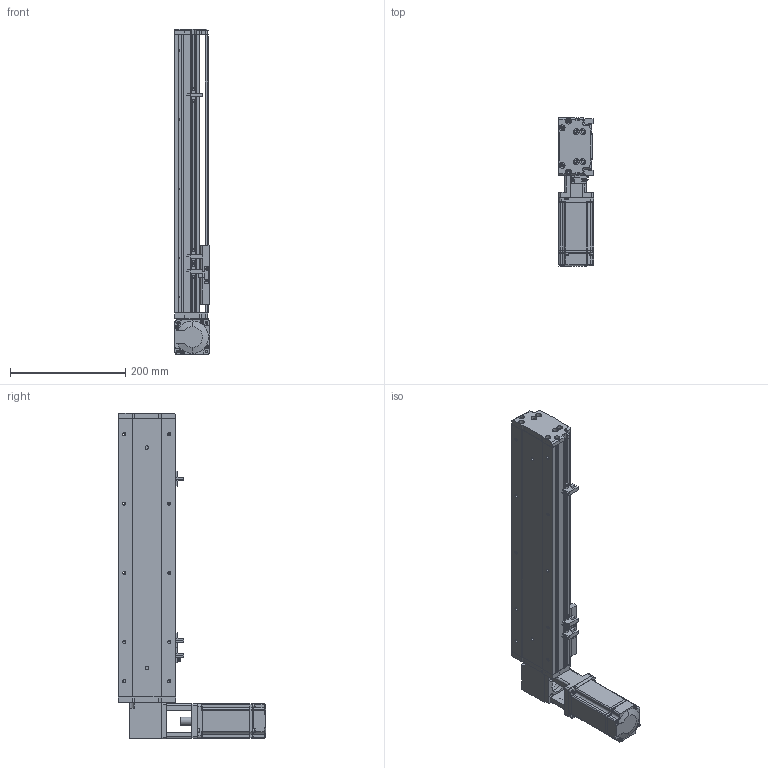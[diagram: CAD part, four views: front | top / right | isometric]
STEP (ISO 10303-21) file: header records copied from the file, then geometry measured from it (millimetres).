
FILE_DESCRIPTION (( 'STEP AP214' ), '1' );
FILE_NAME ('KSD100B-S300-MLT-CM.STEP', '2019-10-26T05:43:16', ( '微软用户' ), ( '微软中国' ), 'SwSTEP 2.0', 'SolidWorks 2014', '' );
FILE_SCHEMA (( 'AUTOMOTIVE_DESIGN' ));
Length unit declared in the file: millimetre
Products named in the file (12): MHMD042G1CA_2_03; 100宽安装板同步带带电机座400W,86; 100遵鎮湛假蚾啣1 ; 100宽防尘板300行程-同步带; U倰嫖萇EEㄜSX672; 覜茼え100遵圉猾敕; 100宽马达安装板同步带右; 100宽同步带安装板半封闭; 100宽马达安装板同步带; 100遵傷啣肮祭湍; 100宽底板半封闭同步带300行程; KSD100B-S300-MLT-CM
Assembly tree (13 placements, depth 2):
  KSD100B-S300-MLT-CM
    100宽底板半封闭同步带300行程
    100遵傷啣肮祭湍
    100宽马达安装板同步带
    100宽同步带安装板半封闭
    100宽马达安装板同步带右
    覜茼え100遵圉猾敕
    U倰嫖萇EEㄜSX672  x3
    100宽防尘板300行程-同步带
    100遵鎮湛假蚾啣1 
    100宽安装板同步带带电机座400W,86
    MHMD042G1CA_2_03
Bounding box: 61 x 256.5 x 565 mm (x, y, z)
Volume: 1183187.2 mm3; surface area: 478593.6 mm2
Topology: 12 solids, 13 shells, 1550 faces, 4384 edges, 2850 vertices
Faces by surface type: cylinder 720, plane 692, cone 120, bspline 18
Entity records: 56276 total; most frequent: CARTESIAN_POINT 10042, DIRECTION 7775, ORIENTED_EDGE 7332, EDGE_CURVE 3738, AXIS2_PLACEMENT_3D 2807, VERTEX_POINT 2474, LINE 2161, VECTOR 2161
